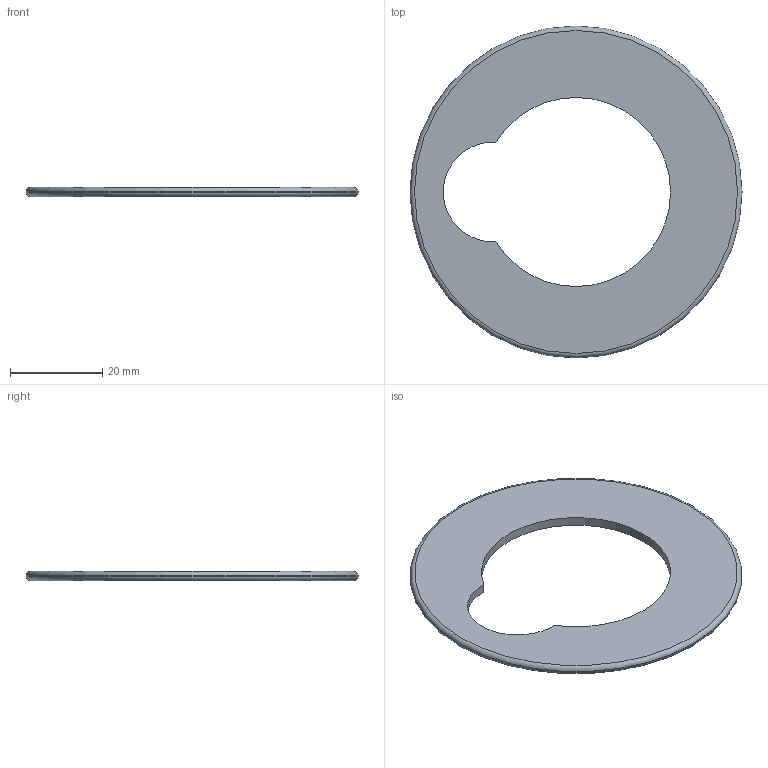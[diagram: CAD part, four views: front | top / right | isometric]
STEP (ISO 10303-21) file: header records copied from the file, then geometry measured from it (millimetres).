
FILE_DESCRIPTION(('Open CASCADE Model'),'2;1');
FILE_NAME('Open CASCADE Shape Model','2026-11-11T21:44:33',('Author'),( 'Open CASCADE'),'Open CASCADE STEP processor 8.0','build123d', 'Unknown');
FILE_SCHEMA(('AUTOMOTIVE_DESIGN { 1 0 10303 214 1 1 1 1 }'));
Length unit declared in the file: millimetre
Products named in the file (1): SOLID
Bounding box: 72 x 72 x 2 mm (x, y, z)
Volume: 5108.5 mm3; surface area: 5744.8 mm2
Topology: 1 solids, 1 shells, 7 faces, 13 edges, 8 vertices
Faces by surface type: cylinder 3, torus 2, plane 2
Full cylindrical faces by diameter (mm): 72 x1
Entity records: 359 total; most frequent: CARTESIAN_POINT 69, DIRECTION 56, ORIENTED_EDGE 26, PCURVE 26, DEFINITIONAL_REPRESENTATION 26, AXIS2_PLACEMENT_3D 18, LINE 15, VECTOR 15
